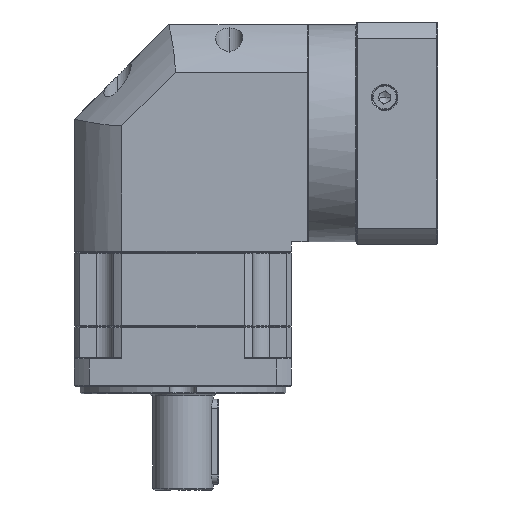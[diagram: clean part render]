
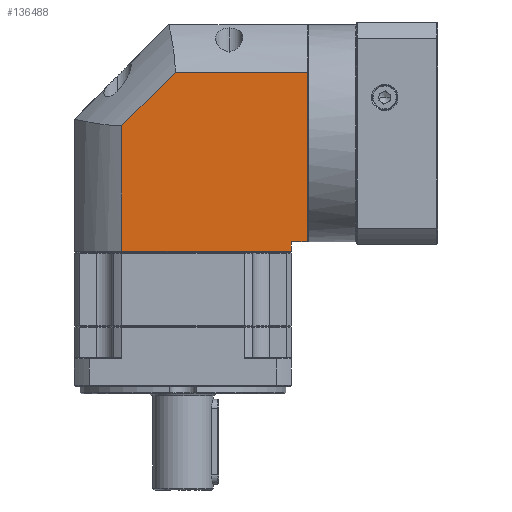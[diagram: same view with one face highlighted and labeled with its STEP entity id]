
A CAD part, front view. The second image highlights one B-rep face of the part: STEP entity #136488.
In plain terms, the highlighted planar face has unit normal (0, -1, 0).
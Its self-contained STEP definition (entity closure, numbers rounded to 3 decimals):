
#884 = CARTESIAN_POINT ( 'NONE',  ( -13.277, 17.224, -36.279 ) ) ;
#8590 = EDGE_CURVE ( 'NONE', #78685, #11448, #8976, .T. ) ;
#8892 = ORIENTED_EDGE ( 'NONE', *, *, #8590, .F. ) ;
#8976 = LINE ( 'NONE', #112672, #118922 ) ;
#10987 = ORIENTED_EDGE ( 'NONE', *, *, #130034, .F. ) ;
#11448 = VERTEX_POINT ( 'NONE', #48629 ) ;
#15814 = VECTOR ( 'NONE', #19177, 1000. ) ;
#16466 = EDGE_LOOP ( 'NONE', ( #127957, #71694, #115972, #74239, #43258, #8892, #10987 ) ) ;
#19177 = DIRECTION ( 'NONE',  ( -1., 0., 0. ) ) ;
#20698 = CARTESIAN_POINT ( 'NONE',  ( 101.723, 17.224, -36.279 ) ) ;
#29481 = VECTOR ( 'NONE', #137478, 1000. ) ;
#33299 = CARTESIAN_POINT ( 'NONE',  ( 110.123, 17.224, 58.621 ) ) ;
#33421 = CARTESIAN_POINT ( 'NONE',  ( 11.823, 17.224, 30.283 ) ) ;
#37884 = VERTEX_POINT ( 'NONE', #85209 ) ;
#41992 = LINE ( 'NONE', #115986, #126810 ) ;
#43258 = ORIENTED_EDGE ( 'NONE', *, *, #123947, .F. ) ;
#44501 = LINE ( 'NONE', #83954, #29481 ) ;
#48629 = CARTESIAN_POINT ( 'NONE',  ( 11.823, 17.224, 30.283 ) ) ;
#50595 = DIRECTION ( 'NONE',  ( 1., 0., 0. ) ) ;
#50893 = DIRECTION ( 'NONE',  ( 0., 0., 1. ) ) ;
#51055 = VERTEX_POINT ( 'NONE', #33299 ) ;
#54084 = LINE ( 'NONE', #93146, #73906 ) ;
#56721 = EDGE_CURVE ( 'NONE', #134841, #37884, #112434, .T. ) ;
#57675 = LINE ( 'NONE', #33421, #74279 ) ;
#68106 = EDGE_CURVE ( 'NONE', #37884, #92965, #54084, .T. ) ;
#68122 = CARTESIAN_POINT ( 'NONE',  ( -13.277, 17.224, -42.779 ) ) ;
#71694 = ORIENTED_EDGE ( 'NONE', *, *, #56721, .F. ) ;
#73906 = VECTOR ( 'NONE', #104254, 1000. ) ;
#73987 = AXIS2_PLACEMENT_3D ( 'NONE', #68122, #114212, #50595 ) ;
#74239 = ORIENTED_EDGE ( 'NONE', *, *, #91275, .F. ) ;
#74279 = VECTOR ( 'NONE', #85930, 1000. ) ;
#78685 = VERTEX_POINT ( 'NONE', #81214 ) ;
#81214 = CARTESIAN_POINT ( 'NONE',  ( 11.823, 17.224, -36.279 ) ) ;
#83954 = CARTESIAN_POINT ( 'NONE',  ( -13.277, 17.224, 58.621 ) ) ;
#85209 = CARTESIAN_POINT ( 'NONE',  ( 101.723, 17.224, -31.279 ) ) ;
#85577 = DIRECTION ( 'NONE',  ( -1., 0., 0. ) ) ;
#85930 = DIRECTION ( 'NONE',  ( 0.707, 0., 0.707 ) ) ;
#91275 = EDGE_CURVE ( 'NONE', #108632, #51055, #44501, .T. ) ;
#92965 = VERTEX_POINT ( 'NONE', #20698 ) ;
#93146 = CARTESIAN_POINT ( 'NONE',  ( 101.723, 17.224, -42.779 ) ) ;
#100883 = FACE_OUTER_BOUND ( 'NONE', #16466, .T. ) ;
#103360 = LINE ( 'NONE', #884, #104936 ) ;
#103874 = CARTESIAN_POINT ( 'NONE',  ( -13.277, 17.224, -31.279 ) ) ;
#104254 = DIRECTION ( 'NONE',  ( 0., 0., -1. ) ) ;
#104936 = VECTOR ( 'NONE', #85577, 1000. ) ;
#108632 = VERTEX_POINT ( 'NONE', #137522 ) ;
#112434 = LINE ( 'NONE', #103874, #15814 ) ;
#112672 = CARTESIAN_POINT ( 'NONE',  ( 11.823, 17.224, -42.779 ) ) ;
#114212 = DIRECTION ( 'NONE',  ( 0., 1., 0. ) ) ;
#115972 = ORIENTED_EDGE ( 'NONE', *, *, #118172, .F. ) ;
#115986 = CARTESIAN_POINT ( 'NONE',  ( 110.123, 17.224, -42.779 ) ) ;
#118172 = EDGE_CURVE ( 'NONE', #51055, #134841, #41992, .T. ) ;
#118922 = VECTOR ( 'NONE', #50893, 1000. ) ;
#120027 = CARTESIAN_POINT ( 'NONE',  ( 110.123, 17.224, -31.279 ) ) ;
#123947 = EDGE_CURVE ( 'NONE', #11448, #108632, #57675, .T. ) ;
#126810 = VECTOR ( 'NONE', #135551, 1000. ) ;
#127957 = ORIENTED_EDGE ( 'NONE', *, *, #68106, .F. ) ;
#130034 = EDGE_CURVE ( 'NONE', #92965, #78685, #103360, .T. ) ;
#134841 = VERTEX_POINT ( 'NONE', #120027 ) ;
#135551 = DIRECTION ( 'NONE',  ( 0., 0., -1. ) ) ;
#135588 = PLANE ( 'NONE',  #73987 ) ;
#136488 = ADVANCED_FACE ( 'NONE', ( #100883 ), #135588, .F. ) ;
#137478 = DIRECTION ( 'NONE',  ( 1., 0., 0. ) ) ;
#137522 = CARTESIAN_POINT ( 'NONE',  ( 40.161, 17.224, 58.621 ) ) ;
